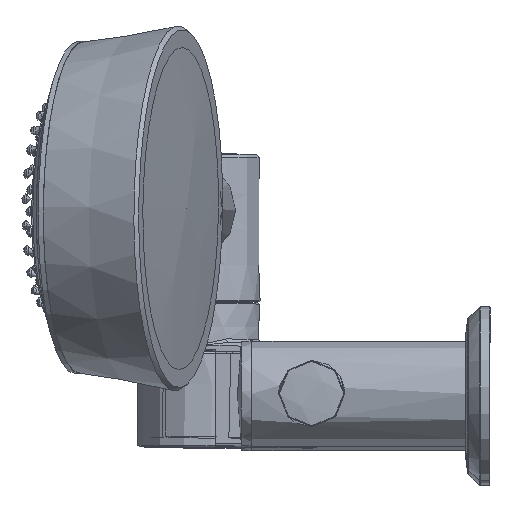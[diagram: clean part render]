
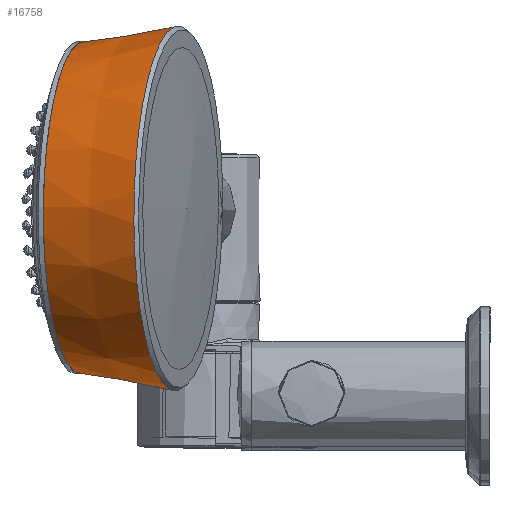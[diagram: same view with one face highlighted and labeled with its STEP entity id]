
A CAD part, top view. The second image highlights one B-rep face of the part: STEP entity #16758.
In plain terms, the highlighted conical face has half-angle 9.782 degrees and reference radius 50 mm.
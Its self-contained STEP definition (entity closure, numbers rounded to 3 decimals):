
#1207=FACE_BOUND('',#3277,.T.);
#2125=FACE_OUTER_BOUND('',#3276,.T.);
#3276=EDGE_LOOP('',(#14725));
#3277=EDGE_LOOP('',(#14726,#14727));
#6095=B_SPLINE_CURVE_WITH_KNOTS('',3,(#111061,#111062,#111063,#111064,#111065,
#111066,#111067,#111068,#111069,#111070,#111071,#111072,#111073,#111074,
#111075,#111076,#111077,#111078,#111079,#111080),.UNSPECIFIED.,.F.,.F.,
(4,1,1,1,1,1,1,1,1,1,1,1,1,1,1,1,1,4),(-6.312,-5.861,
-5.41,-4.959,-4.508,-4.396,
-4.283,-4.058,-3.607,-3.306,
-2.705,-2.555,-2.404,-1.803,
-1.353,-0.902,-0.451,0.),
 .UNSPECIFIED.);
#6637=CIRCLE('',#17937,52.298);
#6638=CIRCLE('',#17939,47.5);
#8097=VERTEX_POINT('',#111058);
#8098=VERTEX_POINT('',#111060);
#8099=VERTEX_POINT('',#111181);
#10320=EDGE_CURVE('',#8097,#8098,#6095,.T.);
#10323=EDGE_CURVE('',#8098,#8097,#6637,.T.);
#10324=EDGE_CURVE('',#8099,#8099,#6638,.T.);
#14725=ORIENTED_EDGE('',*,*,#10324,.F.);
#14726=ORIENTED_EDGE('',*,*,#10320,.F.);
#14727=ORIENTED_EDGE('',*,*,#10323,.F.);
#15066=CONICAL_SURFACE('',#17938,50.,9.782);
#16758=ADVANCED_FACE('',(#2125,#1207),#15066,.T.);
#17937=AXIS2_PLACEMENT_3D('',#111179,#21303,#21304);
#17938=AXIS2_PLACEMENT_3D('',#111180,#21305,#21306);
#17939=AXIS2_PLACEMENT_3D('',#111182,#21307,#21308);
#21303=DIRECTION('center_axis',(0.972,-0.01,0.234));
#21304=DIRECTION('ref_axis',(-0.234,0.002,0.972));
#21305=DIRECTION('center_axis',(0.972,-0.01,0.234));
#21306=DIRECTION('ref_axis',(0.234,-0.002,-0.972));
#21307=DIRECTION('center_axis',(-0.972,0.01,-0.234));
#21308=DIRECTION('ref_axis',(0.234,-0.002,-0.972));
#111058=CARTESIAN_POINT('',(-26.562,46.531,695.178));
#111060=CARTESIAN_POINT('',(-26.421,59.696,695.178));
#111061=CARTESIAN_POINT('Ctrl Pts',(-26.562,46.531,
695.178));
#111062=CARTESIAN_POINT('Ctrl Pts',(-27.394,45.308,695.28));
#111063=CARTESIAN_POINT('Ctrl Pts',(-29.532,43.155,
695.509));
#111064=CARTESIAN_POINT('Ctrl Pts',(-33.702,41.269,
695.688));
#111065=CARTESIAN_POINT('Ctrl Pts',(-38.313,40.983,
695.493));
#111066=CARTESIAN_POINT('Ctrl Pts',(-41.584,41.984,695.055));
#111067=CARTESIAN_POINT('Ctrl Pts',(-43.53,43.097,
694.699));
#111068=CARTESIAN_POINT('Ctrl Pts',(-44.749,43.95,
694.453));
#111069=CARTESIAN_POINT('Ctrl Pts',(-46.652,45.702,
694.014));
#111070=CARTESIAN_POINT('Ctrl Pts',(-48.366,48.471,
693.528));
#111071=CARTESIAN_POINT('Ctrl Pts',(-49.442,52.822,693.186));
#111072=CARTESIAN_POINT('Ctrl Pts',(-48.962,56.35,693.327));
#111073=CARTESIAN_POINT('Ctrl Pts',(-47.67,59.025,
693.688));
#111074=CARTESIAN_POINT('Ctrl Pts',(-46.07,61.511,
694.114));
#111075=CARTESIAN_POINT('Ctrl Pts',(-42.955,64.103,
694.838));
#111076=CARTESIAN_POINT('Ctrl Pts',(-38.075,65.49,
695.49));
#111077=CARTESIAN_POINT('Ctrl Pts',(-33.469,65.114,
695.687));
#111078=CARTESIAN_POINT('Ctrl Pts',(-29.326,63.143,
695.51));
#111079=CARTESIAN_POINT('Ctrl Pts',(-27.227,60.936,
695.28));
#111080=CARTESIAN_POINT('Ctrl Pts',(-26.421,59.696,
695.178));
#111179=CARTESIAN_POINT('Origin',(-38.653,53.243,745.615));
#111180=CARTESIAN_POINT('Origin',(-51.611,53.381,742.49));
#111181=CARTESIAN_POINT('',(-54.572,53.413,692.915));
#111182=CARTESIAN_POINT('Origin',(-65.706,53.532,739.091));
